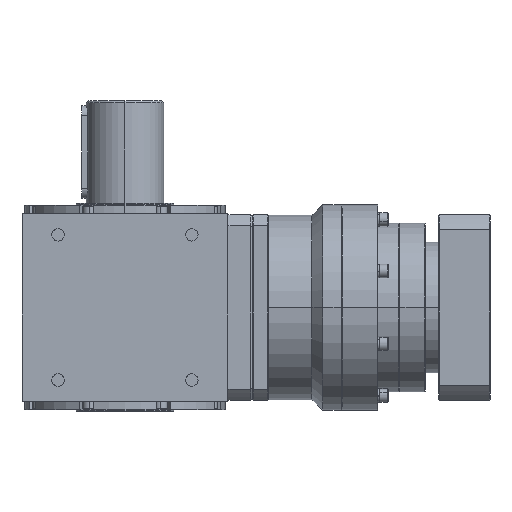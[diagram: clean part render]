
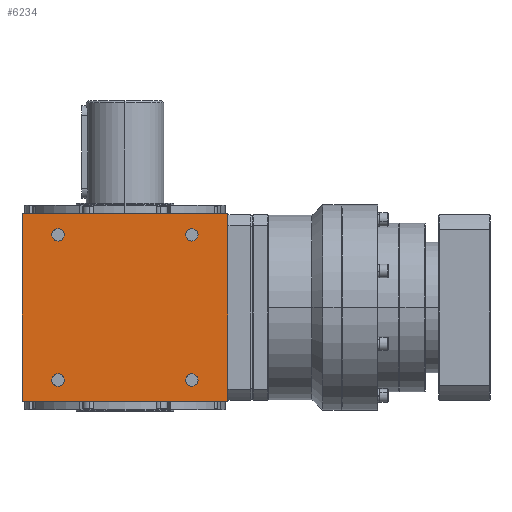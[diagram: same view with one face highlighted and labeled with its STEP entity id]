
A CAD part, left-side view. The second image highlights one B-rep face of the part: STEP entity #6234.
In plain terms, the highlighted planar face has unit normal (-1, 0, 0).
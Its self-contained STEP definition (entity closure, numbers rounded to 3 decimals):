
#164 = AXIS2_PLACEMENT_3D ( 'NONE', #12148, #828, #29910 ) ;
#463 = FACE_BOUND ( 'NONE', #15302, .T. ) ;
#690 = FACE_BOUND ( 'NONE', #1584, .T. ) ;
#828 = DIRECTION ( 'NONE',  ( 1., 0., 0. ) ) ;
#1011 = CARTESIAN_POINT ( 'NONE',  ( -100., 59., -70.5 ) ) ;
#1260 = AXIS2_PLACEMENT_3D ( 'NONE', #11135, #43020, #4671 ) ;
#1346 = DIRECTION ( 'NONE',  ( 0., 0., 1. ) ) ;
#1584 = EDGE_LOOP ( 'NONE', ( #27509, #12310 ) ) ;
#1590 = VERTEX_POINT ( 'NONE', #45445 ) ;
#1623 = CARTESIAN_POINT ( 'NONE',  ( -100., 59., 70.5 ) ) ;
#2310 = DIRECTION ( 'NONE',  ( 0., -1., 0. ) ) ;
#2426 = VECTOR ( 'NONE', #29968, 1000. ) ;
#2767 = DIRECTION ( 'NONE',  ( 0., -1., 0. ) ) ;
#3251 = ORIENTED_EDGE ( 'NONE', *, *, #6598, .F. ) ;
#3809 = ORIENTED_EDGE ( 'NONE', *, *, #23367, .T. ) ;
#3912 = DIRECTION ( 'NONE',  ( -1., 0., 0. ) ) ;
#4323 = VECTOR ( 'NONE', #24751, 1000. ) ;
#4363 = EDGE_CURVE ( 'NONE', #12248, #30974, #6776, .T. ) ;
#4602 = CARTESIAN_POINT ( 'NONE',  ( -100., 100., -91. ) ) ;
#4671 = DIRECTION ( 'NONE',  ( 0., -1., 0. ) ) ;
#5103 = DIRECTION ( 'NONE',  ( 0., -1., 0. ) ) ;
#5341 = VERTEX_POINT ( 'NONE', #38211 ) ;
#5933 = CARTESIAN_POINT ( 'NONE',  ( -100., 100., -91. ) ) ;
#6234 = ADVANCED_FACE ( 'NONE', ( #10856, #463, #21444, #690, #35537 ), #39486, .T. ) ;
#6598 = EDGE_CURVE ( 'NONE', #42403, #5341, #39376, .T. ) ;
#6776 = CIRCLE ( 'NONE', #26698, 6. ) ;
#7042 = ORIENTED_EDGE ( 'NONE', *, *, #21314, .T. ) ;
#8044 = CARTESIAN_POINT ( 'NONE',  ( -100., -100., -91. ) ) ;
#8233 = EDGE_LOOP ( 'NONE', ( #22407, #31807 ) ) ;
#8290 = CARTESIAN_POINT ( 'NONE',  ( -100., 71., -70.5 ) ) ;
#8453 = CIRCLE ( 'NONE', #23209, 6. ) ;
#10714 = DIRECTION ( 'NONE',  ( 1., 0., 0. ) ) ;
#10856 = FACE_OUTER_BOUND ( 'NONE', #41775, .T. ) ;
#11135 = CARTESIAN_POINT ( 'NONE',  ( -100., 65., -70.5 ) ) ;
#11345 = EDGE_CURVE ( 'NONE', #42403, #23850, #36210, .T. ) ;
#12148 = CARTESIAN_POINT ( 'NONE',  ( -100., -65., -70.5 ) ) ;
#12211 = LINE ( 'NONE', #8044, #23781 ) ;
#12248 = VERTEX_POINT ( 'NONE', #16863 ) ;
#12310 = ORIENTED_EDGE ( 'NONE', *, *, #35636, .T. ) ;
#12504 = DIRECTION ( 'NONE',  ( 1., 0., 0. ) ) ;
#12732 = CARTESIAN_POINT ( 'NONE',  ( -100., 65., 70.5 ) ) ;
#13495 = ORIENTED_EDGE ( 'NONE', *, *, #11345, .T. ) ;
#14769 = AXIS2_PLACEMENT_3D ( 'NONE', #24446, #38783, #2767 ) ;
#15302 = EDGE_LOOP ( 'NONE', ( #39075, #39810 ) ) ;
#15531 = DIRECTION ( 'NONE',  ( 0., -1., 0. ) ) ;
#16028 = CARTESIAN_POINT ( 'NONE',  ( -100., -65., 70.5 ) ) ;
#16031 = VERTEX_POINT ( 'NONE', #1623 ) ;
#16433 = EDGE_CURVE ( 'NONE', #23850, #30100, #12211, .T. ) ;
#16863 = CARTESIAN_POINT ( 'NONE',  ( -100., -71., 70.5 ) ) ;
#17175 = VERTEX_POINT ( 'NONE', #31969 ) ;
#17967 = CARTESIAN_POINT ( 'NONE',  ( -100., -59., 70.5 ) ) ;
#18011 = DIRECTION ( 'NONE',  ( 0., -1., 0. ) ) ;
#18374 = EDGE_CURVE ( 'NONE', #5341, #30100, #36326, .T. ) ;
#19423 = CARTESIAN_POINT ( 'NONE',  ( -100., 65., 70.5 ) ) ;
#19857 = CARTESIAN_POINT ( 'NONE',  ( -100., 65., -70.5 ) ) ;
#20294 = AXIS2_PLACEMENT_3D ( 'NONE', #19423, #12504, #5103 ) ;
#21314 = EDGE_CURVE ( 'NONE', #37957, #39811, #8453, .T. ) ;
#21444 = FACE_BOUND ( 'NONE', #8233, .T. ) ;
#21514 = CIRCLE ( 'NONE', #164, 6. ) ;
#21539 = DIRECTION ( 'NONE',  ( 0., -1., 0. ) ) ;
#21845 = AXIS2_PLACEMENT_3D ( 'NONE', #28697, #10714, #21539 ) ;
#22200 = EDGE_CURVE ( 'NONE', #16031, #17175, #23989, .T. ) ;
#22338 = EDGE_CURVE ( 'NONE', #17175, #16031, #39534, .T. ) ;
#22407 = ORIENTED_EDGE ( 'NONE', *, *, #4363, .T. ) ;
#23209 = AXIS2_PLACEMENT_3D ( 'NONE', #19857, #33938, #2310 ) ;
#23367 = EDGE_CURVE ( 'NONE', #39811, #37957, #29998, .T. ) ;
#23377 = DIRECTION ( 'NONE',  ( 0., -1., 0. ) ) ;
#23781 = VECTOR ( 'NONE', #1346, 1000. ) ;
#23850 = VERTEX_POINT ( 'NONE', #33466 ) ;
#23989 = CIRCLE ( 'NONE', #20294, 6. ) ;
#24446 = CARTESIAN_POINT ( 'NONE',  ( -100., -65., -70.5 ) ) ;
#24751 = DIRECTION ( 'NONE',  ( 0., 0., 1. ) ) ;
#25274 = VECTOR ( 'NONE', #15531, 1000. ) ;
#25408 = ORIENTED_EDGE ( 'NONE', *, *, #16433, .T. ) ;
#25534 = CIRCLE ( 'NONE', #21845, 6. ) ;
#26698 = AXIS2_PLACEMENT_3D ( 'NONE', #16028, #43728, #23377 ) ;
#27509 = ORIENTED_EDGE ( 'NONE', *, *, #37504, .T. ) ;
#28697 = CARTESIAN_POINT ( 'NONE',  ( -100., -65., 70.5 ) ) ;
#29910 = DIRECTION ( 'NONE',  ( 0., -1., 0. ) ) ;
#29968 = DIRECTION ( 'NONE',  ( 0., -1., 0. ) ) ;
#29998 = CIRCLE ( 'NONE', #1260, 6. ) ;
#30100 = VERTEX_POINT ( 'NONE', #38221 ) ;
#30974 = VERTEX_POINT ( 'NONE', #17967 ) ;
#31807 = ORIENTED_EDGE ( 'NONE', *, *, #33079, .T. ) ;
#31969 = CARTESIAN_POINT ( 'NONE',  ( -100., 71., 70.5 ) ) ;
#33079 = EDGE_CURVE ( 'NONE', #30974, #12248, #25534, .T. ) ;
#33287 = VERTEX_POINT ( 'NONE', #33542 ) ;
#33466 = CARTESIAN_POINT ( 'NONE',  ( -100., -100., -91. ) ) ;
#33542 = CARTESIAN_POINT ( 'NONE',  ( -100., -71., -70.5 ) ) ;
#33938 = DIRECTION ( 'NONE',  ( 1., 0., 0. ) ) ;
#34410 = DIRECTION ( 'NONE',  ( 1., 0., 0. ) ) ;
#34663 = CIRCLE ( 'NONE', #14769, 6. ) ;
#35537 = FACE_BOUND ( 'NONE', #39149, .T. ) ;
#35636 = EDGE_CURVE ( 'NONE', #1590, #33287, #34663, .T. ) ;
#36210 = LINE ( 'NONE', #36882, #2426 ) ;
#36326 = LINE ( 'NONE', #41318, #25274 ) ;
#36882 = CARTESIAN_POINT ( 'NONE',  ( -100., 0., -91. ) ) ;
#37504 = EDGE_CURVE ( 'NONE', #33287, #1590, #21514, .T. ) ;
#37634 = AXIS2_PLACEMENT_3D ( 'NONE', #4602, #3912, #18011 ) ;
#37957 = VERTEX_POINT ( 'NONE', #1011 ) ;
#38211 = CARTESIAN_POINT ( 'NONE',  ( -100., 100., 91. ) ) ;
#38221 = CARTESIAN_POINT ( 'NONE',  ( -100., -100., 91. ) ) ;
#38783 = DIRECTION ( 'NONE',  ( 1., 0., 0. ) ) ;
#39075 = ORIENTED_EDGE ( 'NONE', *, *, #22200, .T. ) ;
#39149 = EDGE_LOOP ( 'NONE', ( #7042, #3809 ) ) ;
#39376 = LINE ( 'NONE', #39605, #4323 ) ;
#39486 = PLANE ( 'NONE',  #37634 ) ;
#39534 = CIRCLE ( 'NONE', #40264, 6. ) ;
#39605 = CARTESIAN_POINT ( 'NONE',  ( -100., 100., -91. ) ) ;
#39810 = ORIENTED_EDGE ( 'NONE', *, *, #22338, .T. ) ;
#39811 = VERTEX_POINT ( 'NONE', #8290 ) ;
#40264 = AXIS2_PLACEMENT_3D ( 'NONE', #12732, #34410, #45025 ) ;
#41318 = CARTESIAN_POINT ( 'NONE',  ( -100., 0., 91. ) ) ;
#41775 = EDGE_LOOP ( 'NONE', ( #3251, #13495, #25408, #44816 ) ) ;
#42403 = VERTEX_POINT ( 'NONE', #5933 ) ;
#43020 = DIRECTION ( 'NONE',  ( 1., 0., 0. ) ) ;
#43728 = DIRECTION ( 'NONE',  ( 1., 0., 0. ) ) ;
#44816 = ORIENTED_EDGE ( 'NONE', *, *, #18374, .F. ) ;
#45025 = DIRECTION ( 'NONE',  ( 0., -1., 0. ) ) ;
#45445 = CARTESIAN_POINT ( 'NONE',  ( -100., -59., -70.5 ) ) ;
